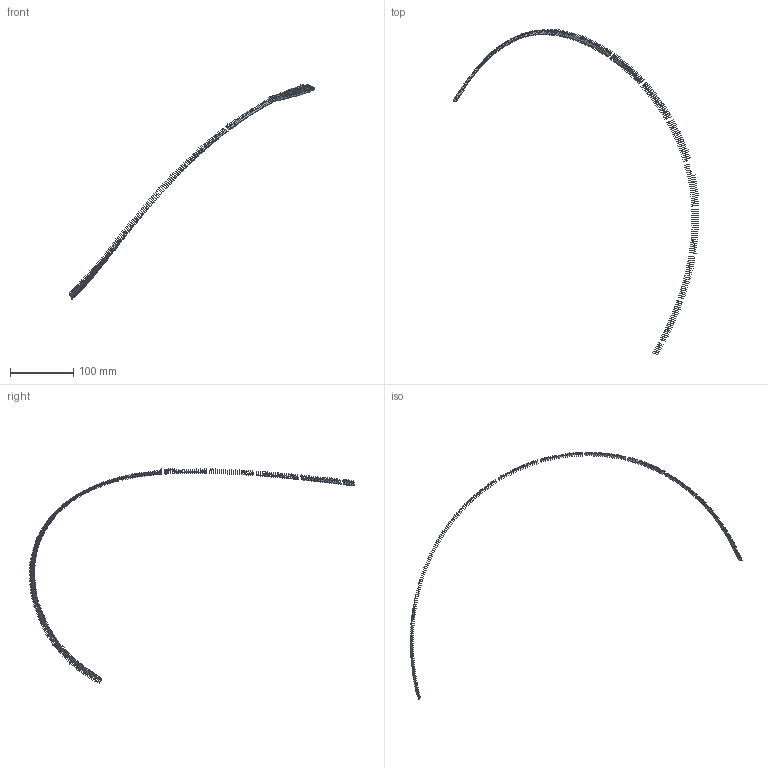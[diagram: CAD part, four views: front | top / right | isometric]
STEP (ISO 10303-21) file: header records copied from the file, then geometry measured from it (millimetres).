
FILE_DESCRIPTION(('FreeCAD Model'),'2;1');
FILE_NAME('Open CASCADE Shape Model','2022-05-22T07:50:15',('FreeCAD'),( 'FreeCAD'),'Open CASCADE STEP processor 7.5','FreeCAD','Unknown');
FILE_SCHEMA(('AUTOMOTIVE_DESIGN { 1 0 10303 214 1 1 1 1 }'));
Length unit declared in the file: millimetre
Products named in the file (299): Open CASCADE STEP translator 7.5 10; Open CASCADE STEP translator 7.5 10.1; Open CASCADE STEP translator 7.5 10.2; Open CASCADE STEP translator 7.5 10.3; Open CASCADE STEP translator 7.5 10.4; Open CASCADE STEP translator 7.5 10.5; Open CASCADE STEP translator 7.5 10.6; Open CASCADE STEP translator 7.5 10.7; Open CASCADE STEP translator 7.5 10.8; Open CASCADE STEP translator 7.5 10.9; Open CASCADE STEP translator 7.5 10.10; Open CASCADE STEP translator 7.5 10.11; Open CASCADE STEP translator 7.5 10.12; Open CASCADE STEP translator 7.5 10.13; Open CASCADE STEP translator 7.5 10.14; Open CASCADE STEP translator 7.5 10.15; Open CASCADE STEP translator 7.5 10.16; Open CASCADE STEP translator 7.5 10.17; Open CASCADE STEP translator 7.5 10.18; Open CASCADE STEP translator 7.5 10.19; Open CASCADE STEP translator 7.5 10.20; Open CASCADE STEP translator 7.5 10.21; Open CASCADE STEP translator 7.5 10.22; Open CASCADE STEP translator 7.5 10.23; Open CASCADE STEP translator 7.5 10.24; Open CASCADE STEP translator 7.5 10.25; Open CASCADE STEP translator 7.5 10.26; Open CASCADE STEP translator 7.5 10.27; Open CASCADE STEP translator 7.5 10.28; Open CASCADE STEP translator 7.5 10.29; Open CASCADE STEP translator 7.5 10.30; Open CASCADE STEP translator 7.5 10.31; Open CASCADE STEP translator 7.5 10.32; Open CASCADE STEP translator 7.5 10.33; Open CASCADE STEP translator 7.5 10.34; Open CASCADE STEP translator 7.5 10.35; Open CASCADE STEP translator 7.5 10.36; Open CASCADE STEP translator 7.5 10.37; Open CASCADE STEP translator 7.5 10.38; Open CASCADE STEP translator 7.5 10.39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
Assembly tree (298 placements, depth 2):
  Open CASCADE STEP translator 7.5 10
    Open CASCADE STEP translator 7.5 10.1
    Open CASCADE STEP translator 7.5 10.2
    Open CASCADE STEP translator 7.5 10.3
    Open CASCADE STEP translator 7.5 10.4
    Open CASCADE STEP translator 7.5 10.5
    Open CASCADE STEP translator 7.5 10.6
    Open CASCADE STEP translator 7.5 10.7
    Open CASCADE STEP translator 7.5 10.8
    Open CASCADE STEP translator 7.5 10.9
    Open CASCADE STEP translator 7.5 10.10
    Open CASCADE STEP translator 7.5 10.11
    Open CASCADE STEP translator 7.5 10.12
    Open CASCADE STEP translator 7.5 10.13
    Open CASCADE STEP translator 7.5 10.14
    Open CASCADE STEP translator 7.5 10.15
    Open CASCADE STEP translator 7.5 10.16
    Open CASCADE STEP translator 7.5 10.17
    Open CASCADE STEP translator 7.5 10.18
    Open CASCADE STEP translator 7.5 10.19
    Open CASCADE STEP translator 7.5 10.20
    Open CASCADE STEP translator 7.5 10.21
    Open CASCADE STEP translator 7.5 10.22
    Open CASCADE STEP translator 7.5 10.23
    Open CASCADE STEP translator 7.5 10.24
    Open CASCADE STEP translator 7.5 10.25
    Open CASCADE STEP translator 7.5 10.26
    Open CASCADE STEP translator 7.5 10.27
    Open CASCADE STEP translator 7.5 10.28
    Open CASCADE STEP translator 7.5 10.29
    Open CASCADE STEP translator 7.5 10.30
    Open CASCADE STEP translator 7.5 10.31
    Open CASCADE STEP translator 7.5 10.32
    Open CASCADE STEP translator 7.5 10.33
    Open CASCADE STEP translator 7.5 10.34
    Open CASCADE STEP translator 7.5 10.35
    Open CASCADE STEP translator 7.5 10.36
    Open CASCADE STEP translator 7.5 10.37
    Open CASCADE STEP translator 7.5 10.38
    Open CASCADE STEP translator 7.5 10.39
    Open CASCADE STEP translator 7.5 10.40
    Open CASCADE STEP translator 7.5 10.41
    Open CASCADE STEP translator 7.5 10.42
    Open CASCADE STEP translator 7.5 10.43
    Open CASCADE STEP translator 7.5 10.44
    Open CASCADE STEP translator 7.5 10.45
    Open CASCADE STEP translator 7.5 10.46
    Open CASCADE STEP translator 7.5 10.47
    Open CASCADE STEP translator 7.5 10.48
    Open CASCADE STEP translator 7.5 10.49
    Open CASCADE STEP translator 7.5 10.50
    Open CASCADE STEP translator 7.5 10.51
    Open CASCADE STEP translator 7.5 10.52
    Open CASCADE STEP translator 7.5 10.53
    Open CASCADE STEP translator 7.5 10.54
    Open CASCADE STEP translator 7.5 10.55
    Open CASCADE STEP translator 7.5 10.56
    Open CASCADE STEP translator 7.5 10.57
    Open CASCADE STEP translator 7.5 10.58
    Open CASCADE STEP translator 7.5 10.59
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Bounding box: 387.5 x 514.03 x 339.32 mm (x, y, z)
Surface area: 8273 mm2 (no closed solid volume)
Topology: 0 solids, 298 shells, 298 faces, 3684 edges, 3684 vertices
Faces by surface type: bspline 298
Entity records: 56252 total; most frequent: CARTESIAN_POINT 19911, B_SPLINE_CURVE_WITH_KNOTS 7368, ORIENTED_EDGE 3684, EDGE_CURVE 3684, VERTEX_POINT 3684, SURFACE_CURVE 3684, PCURVE 3684, DEFINITIONAL_REPRESENTATION 3684
